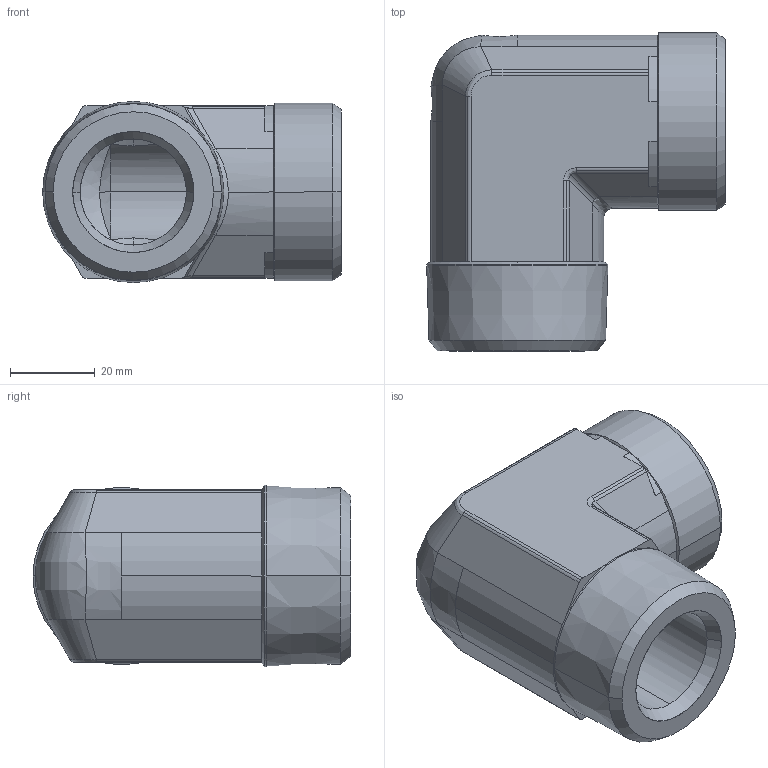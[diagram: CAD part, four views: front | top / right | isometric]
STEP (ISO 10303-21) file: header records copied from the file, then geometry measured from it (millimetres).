
FILE_DESCRIPTION((''),'2;1');
FILE_NAME('102022.stp','2007-10-30T16:37:26',(''),(''),'AutoCAD STEP 2000i','AutoCAD 2000i',', , ');
FILE_SCHEMA(('CONFIG_CONTROL_DESIGN'));
Length unit declared in the file: millimetre
Products named in the file (2): 102022.0; 3090#0
Assembly tree (1 placements, depth 2):
  102022.0
    3090#0
Bounding box: 70.35 x 74.91 x 42.69 mm (x, y, z)
Volume: 87919 mm3; surface area: 23411.4 mm2
Topology: 1 solids, 1 shells, 114 faces, 266 edges, 155 vertices
Faces by surface type: cylinder 48, plane 29, cone 23, bspline 14
Entity records: 4221 total; most frequent: CARTESIAN_POINT 1502, DIRECTION 586, ORIENTED_EDGE 532, EDGE_CURVE 266, AXIS2_PLACEMENT_3D 239, VERTEX_POINT 155, CIRCLE 119, EDGE_LOOP 117
